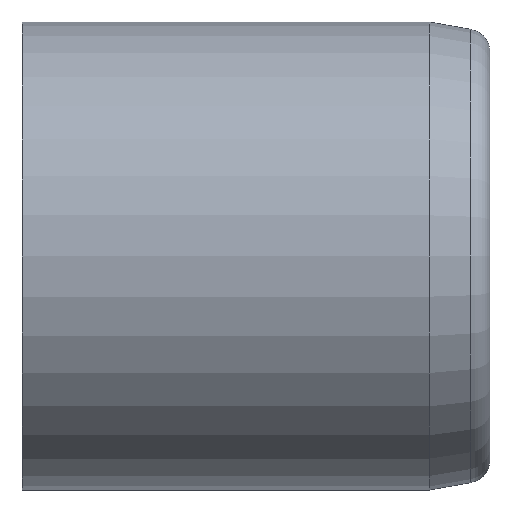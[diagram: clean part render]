
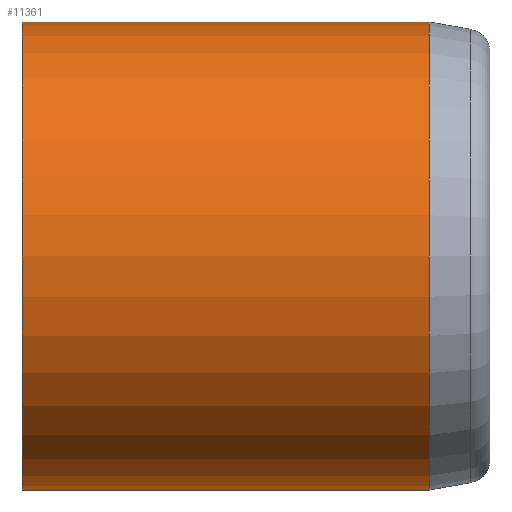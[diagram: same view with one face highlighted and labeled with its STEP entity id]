
A CAD part, left-side view. The second image highlights one B-rep face of the part: STEP entity #11361.
In plain terms, the highlighted cylindrical face has radius 10 mm (diameter 20 mm), a partial arc.
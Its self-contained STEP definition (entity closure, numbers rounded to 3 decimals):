
#1135 = CARTESIAN_POINT ( 'NONE',  ( 0., 20.13, 10. ) ) ;
#1143 = CARTESIAN_POINT ( 'NONE',  ( 0., 20.13, -10. ) ) ;
#1146 = CARTESIAN_POINT ( 'NONE',  ( 0., 2.73, -10. ) ) ;
#1297 = CARTESIAN_POINT ( 'NONE',  ( 0., 2.73, 10. ) ) ;
#1538 = FACE_OUTER_BOUND ( 'NONE', #11464, .T. ) ;
#1540 = DIRECTION ( 'NONE',  ( 0., 0., 1. ) ) ;
#1553 = CARTESIAN_POINT ( 'NONE',  ( 0., -9.8, 0. ) ) ;
#1555 = DIRECTION ( 'NONE',  ( 0., 1., 0. ) ) ;
#1557 = CYLINDRICAL_SURFACE ( 'NONE', #6865, 10. ) ;
#2154 = CARTESIAN_POINT ( 'NONE',  ( 0., -9.8, 10. ) ) ;
#2168 = DIRECTION ( 'NONE',  ( 0., 1., 0. ) ) ;
#2177 = LINE ( 'NONE', #2154, #2778 ) ;
#2234 = DIRECTION ( 'NONE',  ( 0., -1., 0. ) ) ;
#2261 = CARTESIAN_POINT ( 'NONE',  ( 0., 2.73, 0. ) ) ;
#2265 = DIRECTION ( 'NONE',  ( 0., 0., -1. ) ) ;
#2778 = VECTOR ( 'NONE', #2168, 1000. ) ;
#2792 = CIRCLE ( 'NONE', #2796, 10. ) ;
#2796 = AXIS2_PLACEMENT_3D ( 'NONE', #2261, #2234, #2265 ) ;
#5845 = DIRECTION ( 'NONE',  ( 0., -1., 0. ) ) ;
#5854 = CARTESIAN_POINT ( 'NONE',  ( 0., 20.13, 0. ) ) ;
#5857 = DIRECTION ( 'NONE',  ( 0., 1., 0. ) ) ;
#5858 = DIRECTION ( 'NONE',  ( 0., 0., 1. ) ) ;
#5864 = CARTESIAN_POINT ( 'NONE',  ( 0., -9.8, -10. ) ) ;
#5866 = LINE ( 'NONE', #5864, #9060 ) ;
#6865 = AXIS2_PLACEMENT_3D ( 'NONE', #1553, #1555, #1540 ) ;
#9060 = VECTOR ( 'NONE', #5857, 1000. ) ;
#9096 = AXIS2_PLACEMENT_3D ( 'NONE', #5854, #5845, #5858 ) ;
#9099 = CIRCLE ( 'NONE', #9096, 10. ) ;
#9660 = EDGE_CURVE ( 'NONE', #13859, #12980, #2177, .T. ) ;
#9690 = EDGE_CURVE ( 'NONE', #13859, #13016, #2792, .T. ) ;
#11123 = EDGE_CURVE ( 'NONE', #13016, #13013, #5866, .T. ) ;
#11126 = EDGE_CURVE ( 'NONE', #12980, #13013, #9099, .T. ) ;
#11361 = ADVANCED_FACE ( 'NONE', ( #1538 ), #1557, .T. ) ;
#11464 = EDGE_LOOP ( 'NONE', ( #13533, #13490, #13491, #13506 ) ) ;
#12980 = VERTEX_POINT ( 'NONE', #1135 ) ;
#13013 = VERTEX_POINT ( 'NONE', #1143 ) ;
#13016 = VERTEX_POINT ( 'NONE', #1146 ) ;
#13490 = ORIENTED_EDGE ( 'NONE', *, *, #9690, .F. ) ;
#13491 = ORIENTED_EDGE ( 'NONE', *, *, #9660, .T. ) ;
#13506 = ORIENTED_EDGE ( 'NONE', *, *, #11126, .T. ) ;
#13533 = ORIENTED_EDGE ( 'NONE', *, *, #11123, .F. ) ;
#13859 = VERTEX_POINT ( 'NONE', #1297 ) ;
